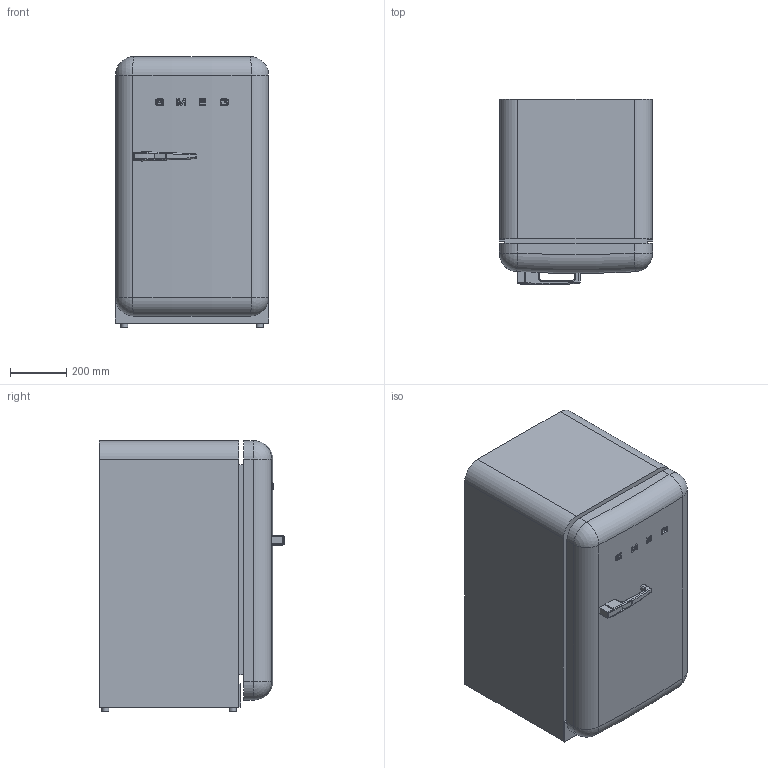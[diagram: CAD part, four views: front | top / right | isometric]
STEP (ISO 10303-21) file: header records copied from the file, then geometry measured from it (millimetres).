
FILE_DESCRIPTION(/* description */ (''),/* implementation_level */ '2;1');
FILE_NAME(/* name */ 'esotico10r.stp',/* time_stamp */ '2018-02-28T11:21:32+01:00',/* author */ (''),/* organization */ (''),/* preprocessor_version */ 'ST-DEVELOPER v16',/* originating_system */ 'SIEMENS PLM Software NX 11.0',/* authorisation */ '');
FILE_SCHEMA (('AUTOMOTIVE_DESIGN { 1 0 10303 214 3 1 1 1 }'));
Length unit declared in the file: millimetre
Products named in the file (1): gobb2564409Buo1f
Bounding box: 543 x 658.11 x 960 mm (x, y, z)
Volume: 308268439.2 mm3; surface area: 4599266 mm2
Topology: 9 solids, 9 shells, 321 faces, 763 edges, 467 vertices
Faces by surface type: plane 125, cylinder 112, torus 42, cone 21, bspline 13, sphere 8
Full cylindrical faces by diameter (mm): 1.697 x40, 25 x4
Entity records: 9504 total; most frequent: CARTESIAN_POINT 2253, DIRECTION 1558, ORIENTED_EDGE 1346, EDGE_CURVE 673, AXIS2_PLACEMENT_3D 602, VERTEX_POINT 467, EDGE_LOOP 418, LINE 354
